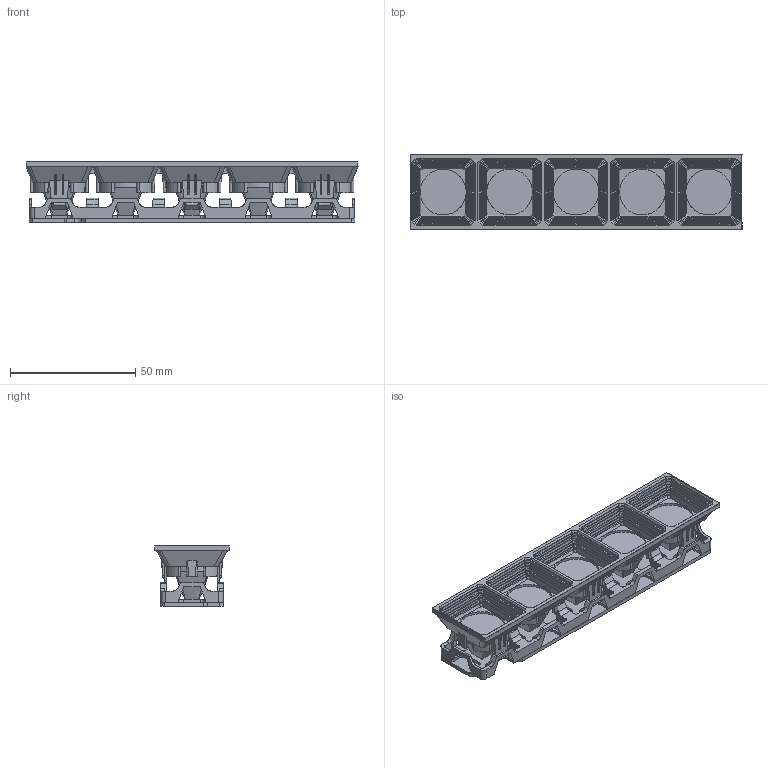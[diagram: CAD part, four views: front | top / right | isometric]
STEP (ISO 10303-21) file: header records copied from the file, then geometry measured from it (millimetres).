
FILE_DESCRIPTION(('Creo Elements/Direct Modeling STEP Export'),'2;1');
FILE_NAME('91700_z.stp','2026-09-11T12:58:18',(''),(''),'Creo Elements/Direct Modeling STEP processor for AP214 (Solid Model)','Creo Elements/Direct Modeling 20.9 29-May-2026 (C) Parametric Technology GmbH','');
FILE_SCHEMA(('AUTOMOTIVE_DESIGN { 1 0 10303 214 1 1 1 1 }'));
Length unit declared in the file: millimetre
Products named in the file (10): 91790; 91755.1.1.1.1; 91755; 91755.1; 91755.1.1; 91755.1.1.1; LED_Board_130mm; 91700; 91700_z
Assembly tree (9 placements, depth 3):
  91700_z
    91700
    LED_Board_130mm
    91755
      91755.1.1.1
      91755.1.1
      91755.1
      91755
      91755.1.1.1.1
    91790
Bounding box: 132.5 x 30 x 24.2 mm (x, y, z)
Volume: 26878.8 mm3; surface area: 33690.3 mm2
Topology: 8 solids, 8 shells, 2364 faces, 6501 edges, 4157 vertices
Faces by surface type: plane 1097, cylinder 834, cone 200, bspline 181, sphere 28, torus 24
Entity records: 121389 total; most frequent: CARTESIAN_POINT 51184, ORIENTED_EDGE 12946, DIRECTION 11620, EDGE_CURVE 6473, VERTEX_POINT 4157, AXIS2_PLACEMENT_3D 3890, VECTOR 3840, LINE 3840
